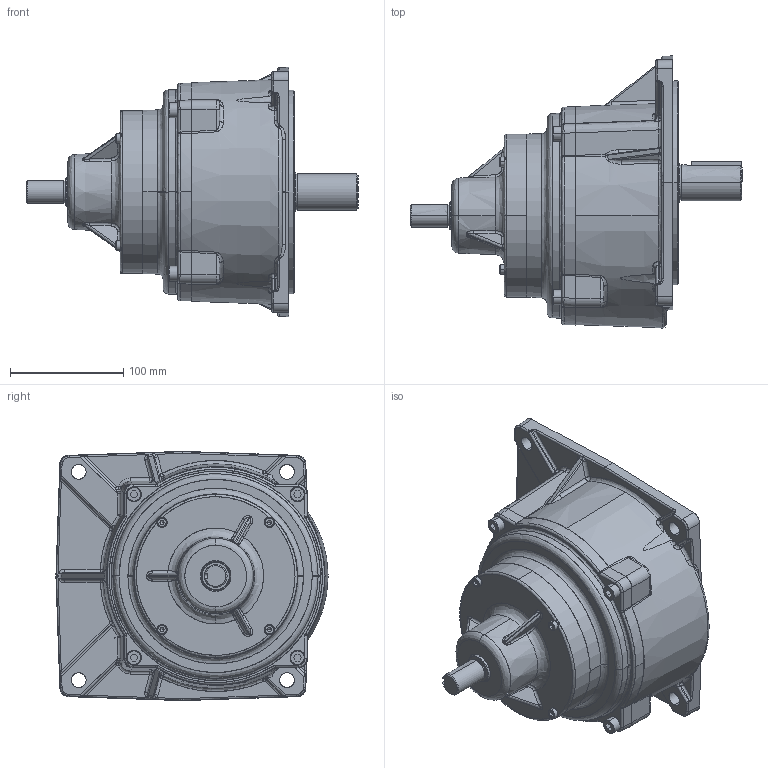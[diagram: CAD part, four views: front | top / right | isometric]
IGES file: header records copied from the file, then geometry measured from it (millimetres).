
Start section: SolidWorks IGES file using analytic representation for surfaces
Bounding box: 293 x 240.19 x 220 mm (x, y, z)
Surface area: 324316.2 mm2 (no closed solid volume)
Topology: 0 solids, 0 shells, 713 faces, 9240 edges, 9229 vertices
Faces by surface type: bspline 441, revolution 272
